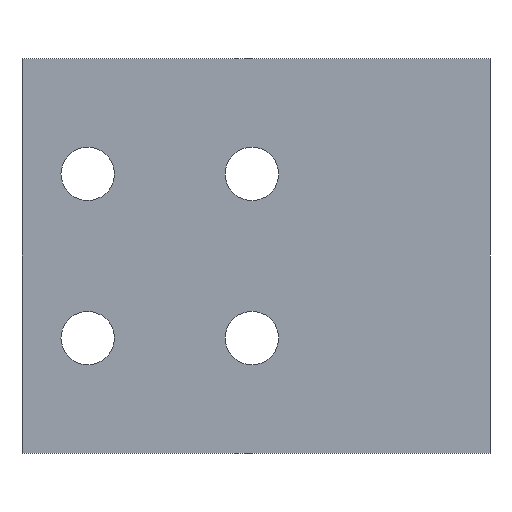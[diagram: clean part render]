
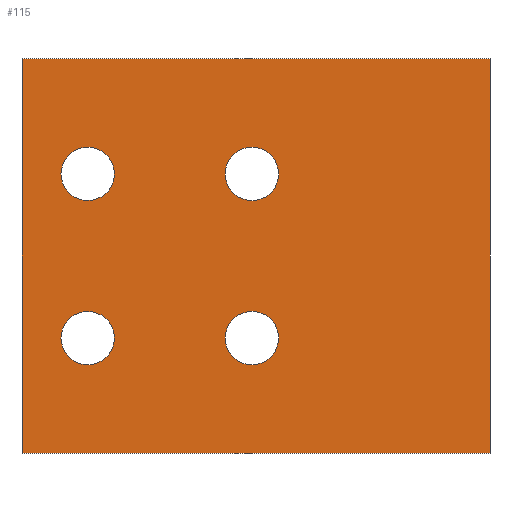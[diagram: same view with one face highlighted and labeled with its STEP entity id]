
A CAD part, front view. The second image highlights one B-rep face of the part: STEP entity #115.
In plain terms, the highlighted planar face has unit normal (0, -1, 0).
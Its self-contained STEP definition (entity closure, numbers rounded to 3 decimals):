
#103 = EDGE_CURVE( '', #119, #231, #270, .T. );
#115 = ADVANCED_FACE( '', ( #285, #286, #287, #288, #289 ), #290, .T. );
#119 = VERTEX_POINT( '', #294 );
#127 = EDGE_CURVE( '', #137, #173, #303, .T. );
#131 = EDGE_CURVE( '', #187, #183, #308, .T. );
#135 = EDGE_CURVE( '', #119, #209, #312, .T. );
#137 = VERTEX_POINT( '', #314 );
#143 = VERTEX_POINT( '', #320 );
#151 = EDGE_CURVE( '', #143, #155, #328, .T. );
#155 = VERTEX_POINT( '', #332 );
#157 = EDGE_CURVE( '', #201, #167, #334, .T. );
#167 = VERTEX_POINT( '', #349 );
#173 = VERTEX_POINT( '', #356 );
#177 = EDGE_CURVE( '', #167, #201, #360, .T. );
#183 = VERTEX_POINT( '', #366 );
#187 = VERTEX_POINT( '', #370 );
#199 = EDGE_CURVE( '', #173, #137, #383, .T. );
#201 = VERTEX_POINT( '', #385 );
#205 = EDGE_CURVE( '', #183, #187, #390, .T. );
#209 = VERTEX_POINT( '', #395 );
#231 = VERTEX_POINT( '', #419 );
#233 = EDGE_CURVE( '', #209, #235, #421, .T. );
#235 = VERTEX_POINT( '', #423 );
#239 = EDGE_CURVE( '', #155, #143, #427, .T. );
#245 = EDGE_CURVE( '', #231, #235, #433, .T. );
#270 = LINE( '', #449, #450 );
#285 = FACE_BOUND( '', #467, .T. );
#286 = FACE_BOUND( '', #468, .T. );
#287 = FACE_BOUND( '', #469, .T. );
#288 = FACE_BOUND( '', #470, .T. );
#289 = FACE_OUTER_BOUND( '', #471, .T. );
#290 = PLANE( '', #472 );
#294 = CARTESIAN_POINT( '', ( 28.5, 0., 24. ) );
#303 = CIRCLE( '', #489, 3.25 );
#308 = CIRCLE( '', #495, 3.25 );
#312 = LINE( '', #501, #502 );
#314 = CARTESIAN_POINT( '', ( -17.25, 0., -10. ) );
#320 = CARTESIAN_POINT( '', ( -17.25, 0., 10. ) );
#328 = CIRCLE( '', #527, 3.25 );
#332 = CARTESIAN_POINT( '', ( -23.75, 0., 10. ) );
#334 = CIRCLE( '', #536, 3.25 );
#349 = CARTESIAN_POINT( '', ( -3.75, 0., 10. ) );
#356 = CARTESIAN_POINT( '', ( -23.75, 0., -10. ) );
#360 = CIRCLE( '', #571, 3.25 );
#366 = CARTESIAN_POINT( '', ( -3.75, 0., -10. ) );
#370 = CARTESIAN_POINT( '', ( 2.75, 0., -10. ) );
#383 = CIRCLE( '', #602, 3.25 );
#385 = CARTESIAN_POINT( '', ( 2.75, 0., 10. ) );
#390 = CIRCLE( '', #610, 3.25 );
#395 = CARTESIAN_POINT( '', ( 28.5, 0., -24. ) );
#419 = CARTESIAN_POINT( '', ( -28.5, 0., 24. ) );
#421 = LINE( '', #649, #650 );
#423 = CARTESIAN_POINT( '', ( -28.5, 0., -24. ) );
#427 = CIRCLE( '', #657, 3.25 );
#433 = LINE( '', #666, #667 );
#449 = CARTESIAN_POINT( '', ( 28.5, 0., 24. ) );
#450 = VECTOR( '', #678, 1. );
#467 = EDGE_LOOP( '', ( #705, #706 ) );
#468 = EDGE_LOOP( '', ( #707, #708 ) );
#469 = EDGE_LOOP( '', ( #709, #710 ) );
#470 = EDGE_LOOP( '', ( #711, #712 ) );
#471 = EDGE_LOOP( '', ( #713, #714, #715, #716 ) );
#472 = AXIS2_PLACEMENT_3D( '', #717, #718, #719 );
#489 = AXIS2_PLACEMENT_3D( '', #732, #733, #734 );
#495 = AXIS2_PLACEMENT_3D( '', #743, #744, #745 );
#501 = CARTESIAN_POINT( '', ( 28.5, 0., 24. ) );
#502 = VECTOR( '', #749, 1. );
#527 = AXIS2_PLACEMENT_3D( '', #754, #755, #756 );
#536 = AXIS2_PLACEMENT_3D( '', #758, #759, #760 );
#571 = AXIS2_PLACEMENT_3D( '', #794, #795, #796 );
#602 = AXIS2_PLACEMENT_3D( '', #811, #812, #813 );
#610 = AXIS2_PLACEMENT_3D( '', #822, #823, #824 );
#649 = CARTESIAN_POINT( '', ( 28.5, 0., -24. ) );
#650 = VECTOR( '', #860, 1. );
#657 = AXIS2_PLACEMENT_3D( '', #861, #862, #863 );
#666 = CARTESIAN_POINT( '', ( -28.5, 0., 24. ) );
#667 = VECTOR( '', #865, 1. );
#678 = DIRECTION( '', ( -1., 0., 0. ) );
#705 = ORIENTED_EDGE( '', *, *, #157, .T. );
#706 = ORIENTED_EDGE( '', *, *, #177, .T. );
#707 = ORIENTED_EDGE( '', *, *, #151, .T. );
#708 = ORIENTED_EDGE( '', *, *, #239, .T. );
#709 = ORIENTED_EDGE( '', *, *, #131, .T. );
#710 = ORIENTED_EDGE( '', *, *, #205, .T. );
#711 = ORIENTED_EDGE( '', *, *, #127, .T. );
#712 = ORIENTED_EDGE( '', *, *, #199, .T. );
#713 = ORIENTED_EDGE( '', *, *, #245, .T. );
#714 = ORIENTED_EDGE( '', *, *, #233, .F. );
#715 = ORIENTED_EDGE( '', *, *, #135, .F. );
#716 = ORIENTED_EDGE( '', *, *, #103, .T. );
#717 = CARTESIAN_POINT( '', ( 28.5, 0., 24. ) );
#718 = DIRECTION( '', ( 0., -1., 0. ) );
#719 = DIRECTION( '', ( 0., 0., 1. ) );
#732 = CARTESIAN_POINT( '', ( -20.5, 0., -10. ) );
#733 = DIRECTION( '', ( 0., 1., 0. ) );
#734 = DIRECTION( '', ( -1., 0., 0. ) );
#743 = CARTESIAN_POINT( '', ( -0.5, 0., -10. ) );
#744 = DIRECTION( '', ( 0., 1., 0. ) );
#745 = DIRECTION( '', ( -1., 0., 0. ) );
#749 = DIRECTION( '', ( 0., 0., -1. ) );
#754 = CARTESIAN_POINT( '', ( -20.5, 0., 10. ) );
#755 = DIRECTION( '', ( 0., 1., 0. ) );
#756 = DIRECTION( '', ( -1., 0., 0. ) );
#758 = CARTESIAN_POINT( '', ( -0.5, 0., 10. ) );
#759 = DIRECTION( '', ( 0., 1., 0. ) );
#760 = DIRECTION( '', ( -1., 0., 0. ) );
#794 = CARTESIAN_POINT( '', ( -0.5, 0., 10. ) );
#795 = DIRECTION( '', ( 0., 1., 0. ) );
#796 = DIRECTION( '', ( -1., 0., 0. ) );
#811 = CARTESIAN_POINT( '', ( -20.5, 0., -10. ) );
#812 = DIRECTION( '', ( 0., 1., 0. ) );
#813 = DIRECTION( '', ( -1., 0., 0. ) );
#822 = CARTESIAN_POINT( '', ( -0.5, 0., -10. ) );
#823 = DIRECTION( '', ( 0., 1., 0. ) );
#824 = DIRECTION( '', ( -1., 0., 0. ) );
#860 = DIRECTION( '', ( -1., 0., 0. ) );
#861 = CARTESIAN_POINT( '', ( -20.5, 0., 10. ) );
#862 = DIRECTION( '', ( 0., 1., 0. ) );
#863 = DIRECTION( '', ( -1., 0., 0. ) );
#865 = DIRECTION( '', ( 0., 0., -1. ) );
